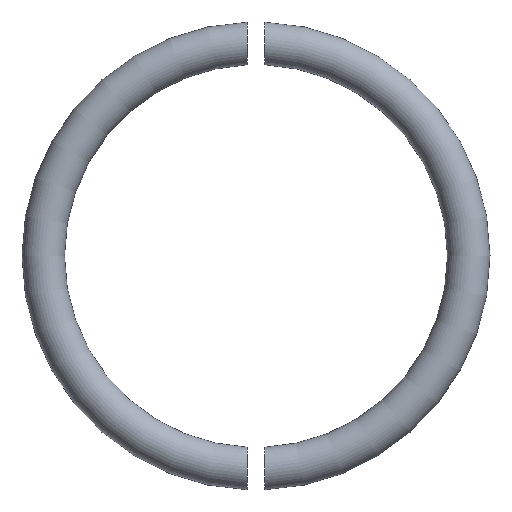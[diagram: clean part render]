
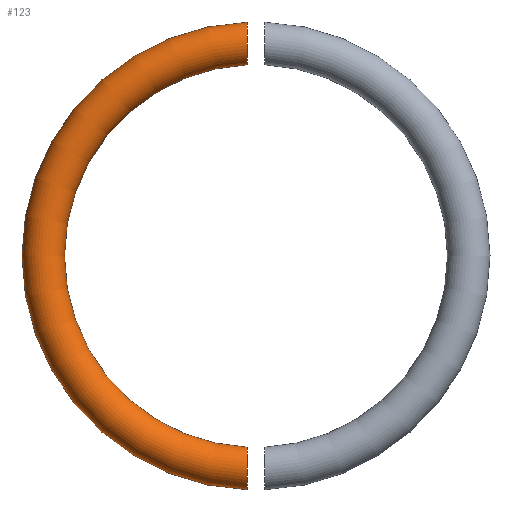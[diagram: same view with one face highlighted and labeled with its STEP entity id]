
A CAD part, top view. The second image highlights one B-rep face of the part: STEP entity #123.
In plain terms, the highlighted toroidal (fillet/blend) face has major radius 12.5 mm and minor radius 1.25 mm.
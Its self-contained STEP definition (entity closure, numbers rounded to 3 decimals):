
#31=CARTESIAN_POINT('Axis2P3D Location',(0.,0.,0.)) ;
#49=CARTESIAN_POINT('Vertex',(-0.5,11.239,0.)) ;
#51=CARTESIAN_POINT('Vertex',(-0.5,13.741,0.)) ;
#54=CARTESIAN_POINT('Axis2P3D Location',(0.,0.,0.)) ;
#58=CARTESIAN_POINT('Vertex',(-0.5,-11.239,0.)) ;
#74=CARTESIAN_POINT('Vertex',(-0.5,-13.741,0.)) ;
#77=CARTESIAN_POINT('Axis2P3D Location',(0.,0.,0.)) ;
#90=CARTESIAN_POINT('Control Point',(-0.5,11.239,0.)) ;
#91=CARTESIAN_POINT('Control Point',(-0.5,11.239,0.32)) ;
#92=CARTESIAN_POINT('Control Point',(-0.5,11.341,0.64)) ;
#93=CARTESIAN_POINT('Control Point',(-0.5,11.547,0.916)) ;
#94=CARTESIAN_POINT('Control Point',(-0.5,11.963,1.201)) ;
#95=CARTESIAN_POINT('Control Point',(-0.5,12.446,1.265)) ;
#96=CARTESIAN_POINT('Control Point',(-0.5,12.609,1.26)) ;
#97=CARTESIAN_POINT('Control Point',(-0.5,13.072,1.17)) ;
#98=CARTESIAN_POINT('Control Point',(-0.5,13.461,0.877)) ;
#99=CARTESIAN_POINT('Control Point',(-0.5,13.648,0.61)) ;
#100=CARTESIAN_POINT('Control Point',(-0.5,13.741,0.305)) ;
#101=CARTESIAN_POINT('Control Point',(-0.5,13.741,0.)) ;
#104=CARTESIAN_POINT('Control Point',(-0.5,-11.239,0.)) ;
#105=CARTESIAN_POINT('Control Point',(-0.5,-11.239,0.32)) ;
#106=CARTESIAN_POINT('Control Point',(-0.5,-11.341,0.64)) ;
#107=CARTESIAN_POINT('Control Point',(-0.5,-11.547,0.916)) ;
#108=CARTESIAN_POINT('Control Point',(-0.5,-11.963,1.201)) ;
#109=CARTESIAN_POINT('Control Point',(-0.5,-12.446,1.265)) ;
#110=CARTESIAN_POINT('Control Point',(-0.5,-12.609,1.26)) ;
#111=CARTESIAN_POINT('Control Point',(-0.5,-13.072,1.17)) ;
#112=CARTESIAN_POINT('Control Point',(-0.5,-13.461,0.877)) ;
#113=CARTESIAN_POINT('Control Point',(-0.5,-13.648,0.61)) ;
#114=CARTESIAN_POINT('Control Point',(-0.5,-13.741,0.305)) ;
#115=CARTESIAN_POINT('Control Point',(-0.5,-13.741,0.)) ;
#32=DIRECTION('Axis2P3D Direction',(0.,0.,1.)) ;
#33=DIRECTION('Axis2P3D XDirection',(0.,1.,0.)) ;
#55=DIRECTION('Axis2P3D Direction',(0.,0.,1.)) ;
#78=DIRECTION('Axis2P3D Direction',(0.,0.,1.)) ;
#34=AXIS2_PLACEMENT_3D('Torus Axis2P3D',#31,#32,#33) ;
#56=AXIS2_PLACEMENT_3D('Circle Axis2P3D',#54,#55,$) ;
#79=AXIS2_PLACEMENT_3D('Circle Axis2P3D',#77,#78,$) ;
#57=CIRCLE('generated circle',#56,11.25) ;
#80=CIRCLE('generated circle',#79,13.75) ;
#35=TOROIDAL_SURFACE('homeo Torus',#34,12.5,1.25) ;
#60=EDGE_CURVE('',#50,#59,#57,.T.) ;
#81=EDGE_CURVE('',#52,#75,#80,.T.) ;
#102=EDGE_CURVE('',#50,#52,#89,.T.) ;
#116=EDGE_CURVE('',#59,#75,#103,.T.) ;
#117=EDGE_LOOP('',(#118,#119,#120,#121)) ;
#118=ORIENTED_EDGE('',*,*,#102,.T.) ;
#119=ORIENTED_EDGE('',*,*,#81,.T.) ;
#120=ORIENTED_EDGE('',*,*,#116,.F.) ;
#121=ORIENTED_EDGE('',*,*,#60,.F.) ;
#50=VERTEX_POINT('',#49) ;
#52=VERTEX_POINT('',#51) ;
#59=VERTEX_POINT('',#58) ;
#75=VERTEX_POINT('',#74) ;
#123=ADVANCED_FACE('PartBody',(#122),#35,.T.) ;
#89=B_SPLINE_CURVE_WITH_KNOTS('',5,(#90,#91,#92,#93,#94,#95,#96,#97,#98,#99,#100,#101),.UNSPECIFIED.,.F.,.U.,(6,3,3,6),(0.,2.262,3.398,5.556),.UNSPECIFIED.) ;
#103=B_SPLINE_CURVE_WITH_KNOTS('',5,(#104,#105,#106,#107,#108,#109,#110,#111,#112,#113,#114,#115),.UNSPECIFIED.,.F.,.U.,(6,3,3,6),(0.,2.262,3.398,5.556),.UNSPECIFIED.) ;
#122=FACE_OUTER_BOUND('',#117,.T.) ;
